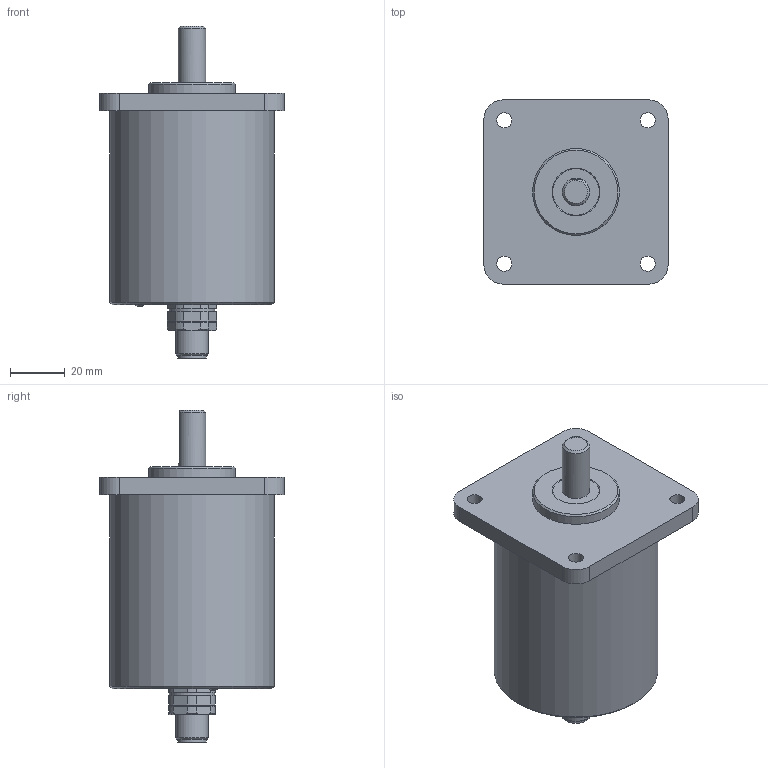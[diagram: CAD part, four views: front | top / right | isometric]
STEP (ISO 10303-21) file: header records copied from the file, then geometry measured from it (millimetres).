
FILE_DESCRIPTION(/* description */ ('Alibre Inc.'),/* implementation_level */ '2;1');
FILE_NAME(/* name */ 'export0',/* time_stamp */ '2016-10-21T14:14:13-04:00',/* author */ (''),/* organization */ (''),/* preprocessor_version */ 'ST-DEVELOPER v14',/* originating_system */ 'Alibre',/* authorisation */ '');
FILE_SCHEMA (('CONFIG_CONTROL_DESIGN'));
Length unit declared in the file: centimetre
Products named in the file (1): ID_1
Bounding box: 67.31 x 67.31 x 121.25 mm (x, y, z)
Volume: 144685.6 mm3; surface area: 44473.2 mm2
Topology: 3 solids, 44 shells, 281 faces, 475 edges, 312 vertices
Faces by surface type: plane 149, cylinder 104, cone 24, bspline 3, torus 1
Full cylindrical faces by diameter (mm): 1.4 x8, 2.87 x2, 3 x37, 5.5 x4, 8.3 x1, 9.9 x2, 10 x3, 10.5 x1, 11.8 x1, 12 x1, 13.5 x2, 14 x1, 15.2 x1, 16.5 x1, 17 x1, 20 x1, 26 x1, 31.75 x1, 40 x1, 46 x1, 55.8 x1, 60 x1
Entity records: 5977 total; most frequent: CARTESIAN_POINT 1104, DIRECTION 965, ORIENTED_EDGE 740, AXIS2_PLACEMENT_3D 484, EDGE_LOOP 421, FACE_BOUND 421, EDGE_CURVE 370, VERTEX_POINT 301
